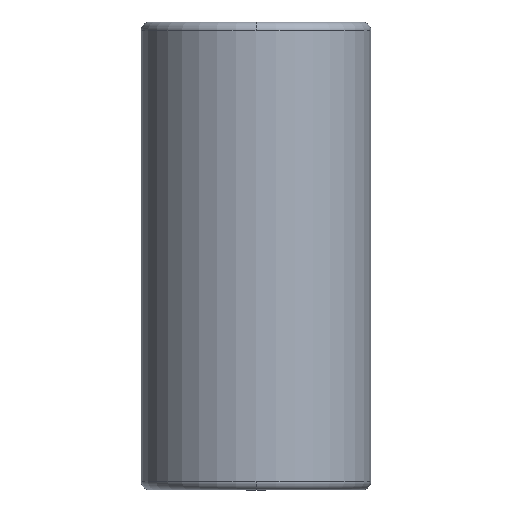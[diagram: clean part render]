
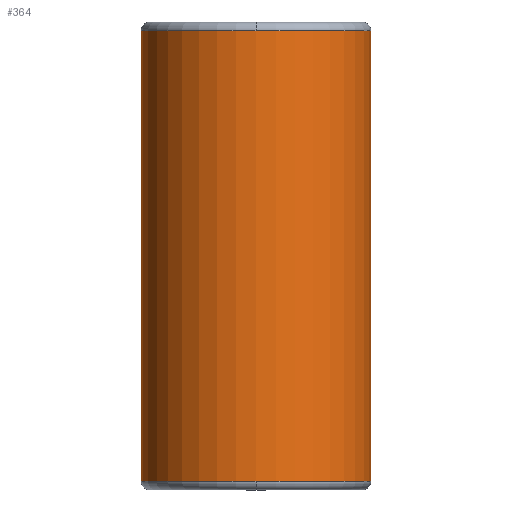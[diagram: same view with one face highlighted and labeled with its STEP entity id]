
A CAD part, front view. The second image highlights one B-rep face of the part: STEP entity #364.
In plain terms, the highlighted cylindrical face has radius 26.993 mm (diameter 53.986 mm), a partial arc.
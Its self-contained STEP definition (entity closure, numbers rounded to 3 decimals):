
#269=CARTESIAN_POINT('',(0.0,-26.993,108.));
#270=VERTEX_POINT('',#269);
#296=CARTESIAN_POINT('',(-26.993,0.,108.));
#297=VERTEX_POINT('',#296);
#305=CARTESIAN_POINT('',(0.0,0.,108.));
#306=DIRECTION('',(0.0,0.0,1.0));
#307=DIRECTION('',(1.0,0.0,0.0));
#308=AXIS2_PLACEMENT_3D('',#305,#306,#307);
#309=CIRCLE('',#308,26.993);
#310=EDGE_CURVE('',#297,#270,#309,.T.);
#315=CARTESIAN_POINT('',(0.0,0.,55.));
#316=DIRECTION('',(0.0,0.,1.0));
#317=DIRECTION('',(1.0,0.0,0.0));
#318=AXIS2_PLACEMENT_3D('',#315,#316,#317);
#319=CYLINDRICAL_SURFACE('',#318,26.993);
#320=CARTESIAN_POINT('',(26.993,0.,108.));
#321=VERTEX_POINT('',#320);
#322=CARTESIAN_POINT('',(26.993,0.,2.));
#323=VERTEX_POINT('',#322);
#324=CARTESIAN_POINT('',(26.993,0.,108.));
#325=DIRECTION('',(0.0,0.0,-1.0));
#326=VECTOR('',#325,106.);
#327=LINE('',#324,#326);
#328=EDGE_CURVE('',#321,#323,#327,.T.);
#329=ORIENTED_EDGE('',*,*,#328,.F.);
#330=CARTESIAN_POINT('',(0.0,0.,108.));
#331=DIRECTION('',(0.0,0.0,1.0));
#332=DIRECTION('',(1.0,0.0,0.0));
#333=AXIS2_PLACEMENT_3D('',#330,#331,#332);
#334=CIRCLE('',#333,26.993);
#335=EDGE_CURVE('',#270,#321,#334,.T.);
#336=ORIENTED_EDGE('',*,*,#335,.F.);
#337=ORIENTED_EDGE('',*,*,#310,.F.);
#338=CARTESIAN_POINT('',(-26.993,0.,2.0));
#339=VERTEX_POINT('',#338);
#340=CARTESIAN_POINT('',(-26.993,0.,108.));
#341=DIRECTION('',(0.0,0.0,-1.0));
#342=VECTOR('',#341,106.);
#343=LINE('',#340,#342);
#344=EDGE_CURVE('',#297,#339,#343,.T.);
#345=ORIENTED_EDGE('',*,*,#344,.T.);
#346=CARTESIAN_POINT('',(0.0,-26.993,2.));
#347=VERTEX_POINT('',#346);
#348=CARTESIAN_POINT('',(0.0,0.,2.0));
#349=DIRECTION('',(0.0,0.0,1.0));
#350=DIRECTION('',(1.0,0.0,0.0));
#351=AXIS2_PLACEMENT_3D('',#348,#349,#350);
#352=CIRCLE('',#351,26.993);
#353=EDGE_CURVE('',#339,#347,#352,.T.);
#354=ORIENTED_EDGE('',*,*,#353,.T.);
#355=CARTESIAN_POINT('',(0.0,0.,2.0));
#356=DIRECTION('',(0.0,0.0,1.0));
#357=DIRECTION('',(1.0,0.0,0.0));
#358=AXIS2_PLACEMENT_3D('',#355,#356,#357);
#359=CIRCLE('',#358,26.993);
#360=EDGE_CURVE('',#347,#323,#359,.T.);
#361=ORIENTED_EDGE('',*,*,#360,.T.);
#362=EDGE_LOOP('',(#329,#336,#337,#345,#354,#361));
#363=FACE_OUTER_BOUND('',#362,.T.);
#364=ADVANCED_FACE('',(#363),#319,.T.);
